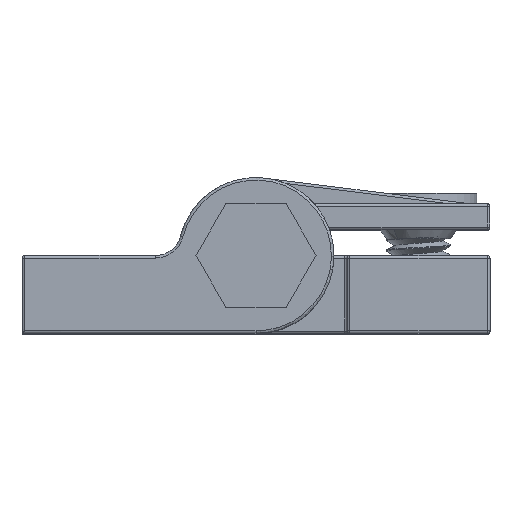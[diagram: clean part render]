
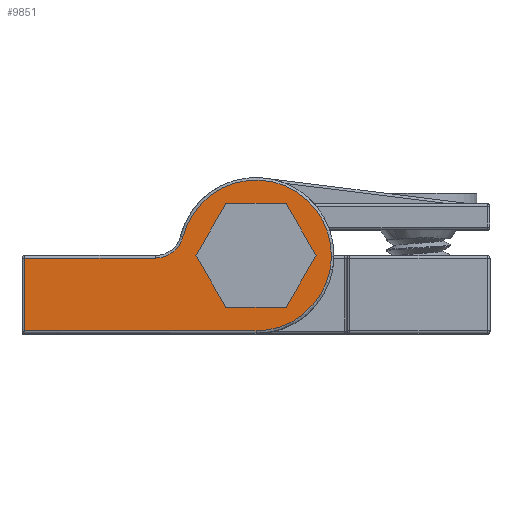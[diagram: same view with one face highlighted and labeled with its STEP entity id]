
A CAD part, top view. The second image highlights one B-rep face of the part: STEP entity #9851.
In plain terms, the highlighted planar face has unit normal (0, 0, 1) as drawn and (0, 0, -1) by its records, which use the part's own axes.
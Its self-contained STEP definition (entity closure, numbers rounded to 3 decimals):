
#4 = CARTESIAN_POINT ( 'NONE',  ( -2.309, 4., -21.5 ) ) ;
#295 = ORIENTED_EDGE ( 'NONE', *, *, #7822, .T. ) ;
#457 = VERTEX_POINT ( 'NONE', #5796 ) ;
#459 = CARTESIAN_POINT ( 'NONE',  ( -2.309, -4., -21.5 ) ) ;
#514 = CARTESIAN_POINT ( 'NONE',  ( -3.464, 2., -21.5 ) ) ;
#625 = DIRECTION ( 'NONE',  ( -0.5, 0.866, 0. ) ) ;
#709 = ORIENTED_EDGE ( 'NONE', *, *, #4555, .T. ) ;
#744 = VECTOR ( 'NONE', #6131, 1000. ) ;
#793 = CARTESIAN_POINT ( 'NONE',  ( -4.619, 0., -21.5 ) ) ;
#881 = VECTOR ( 'NONE', #8387, 1000. ) ;
#1053 = ORIENTED_EDGE ( 'NONE', *, *, #9034, .T. ) ;
#1059 = CARTESIAN_POINT ( 'NONE',  ( 3.464, -2., -21.5 ) ) ;
#1185 = CARTESIAN_POINT ( 'NONE',  ( 17.8, -5.8, -21.5 ) ) ;
#1251 = LINE ( 'NONE', #9494, #5747 ) ;
#1463 = VERTEX_POINT ( 'NONE', #1185 ) ;
#1751 = VERTEX_POINT ( 'NONE', #5449 ) ;
#1937 = CARTESIAN_POINT ( 'NONE',  ( 0., 0., -21.5 ) ) ;
#1951 = CARTESIAN_POINT ( 'NONE',  ( 0., -5.8, -21.5 ) ) ;
#2195 = ORIENTED_EDGE ( 'NONE', *, *, #7125, .T. ) ;
#2362 = VECTOR ( 'NONE', #3946, 1000. ) ;
#2554 = VECTOR ( 'NONE', #7519, 1000. ) ;
#2564 = CARTESIAN_POINT ( 'NONE',  ( -3.464, -2., -21.5 ) ) ;
#2586 = LINE ( 'NONE', #4957, #881 ) ;
#2690 = CARTESIAN_POINT ( 'NONE',  ( 0., 0., -21.5 ) ) ;
#2800 = VECTOR ( 'NONE', #625, 1000. ) ;
#3041 = EDGE_LOOP ( 'NONE', ( #2195, #295, #3044, #709, #4730, #7306 ) ) ;
#3044 = ORIENTED_EDGE ( 'NONE', *, *, #3278, .T. ) ;
#3278 = EDGE_CURVE ( 'NONE', #6644, #9101, #5016, .T. ) ;
#3298 = ORIENTED_EDGE ( 'NONE', *, *, #9732, .T. ) ;
#3408 = DIRECTION ( 'NONE',  ( 0.5, -0.866, 0. ) ) ;
#3422 = VERTEX_POINT ( 'NONE', #793 ) ;
#3521 = DIRECTION ( 'NONE',  ( 1., 0., 0. ) ) ;
#3524 = DIRECTION ( 'NONE',  ( 1., 0., 0. ) ) ;
#3538 = EDGE_LOOP ( 'NONE', ( #3860, #1053, #3298, #8294, #10411 ) ) ;
#3589 = DIRECTION ( 'NONE',  ( 0., -1., 0. ) ) ;
#3756 = FACE_BOUND ( 'NONE', #3041, .T. ) ;
#3860 = ORIENTED_EDGE ( 'NONE', *, *, #9168, .T. ) ;
#3946 = DIRECTION ( 'NONE',  ( -1., 0., 0. ) ) ;
#4120 = VERTEX_POINT ( 'NONE', #8276 ) ;
#4158 = LINE ( 'NONE', #4361, #8415 ) ;
#4269 = VECTOR ( 'NONE', #8967, 1000. ) ;
#4321 = VERTEX_POINT ( 'NONE', #1951 ) ;
#4361 = CARTESIAN_POINT ( 'NONE',  ( 0., -0.2, -21.5 ) ) ;
#4555 = EDGE_CURVE ( 'NONE', #9101, #9922, #9115, .T. ) ;
#4574 = VERTEX_POINT ( 'NONE', #6559 ) ;
#4646 = CARTESIAN_POINT ( 'NONE',  ( 7.746, 2., -21.5 ) ) ;
#4677 = AXIS2_PLACEMENT_3D ( 'NONE', #2690, #8624, #3524 ) ;
#4730 = ORIENTED_EDGE ( 'NONE', *, *, #8125, .T. ) ;
#4791 = LINE ( 'NONE', #10023, #2554 ) ;
#4957 = CARTESIAN_POINT ( 'NONE',  ( 0., -4., -21.5 ) ) ;
#5016 = LINE ( 'NONE', #9039, #2800 ) ;
#5449 = CARTESIAN_POINT ( 'NONE',  ( 5.616, 1.45, -21.5 ) ) ;
#5518 = DIRECTION ( 'NONE',  ( 1., 0., 0. ) ) ;
#5747 = VECTOR ( 'NONE', #3589, 1000. ) ;
#5760 = LINE ( 'NONE', #2564, #9979 ) ;
#5796 = CARTESIAN_POINT ( 'NONE',  ( 7.746, -0.2, -21.5 ) ) ;
#6131 = DIRECTION ( 'NONE',  ( 0.5, 0.866, 0. ) ) ;
#6302 = FACE_OUTER_BOUND ( 'NONE', #3538, .T. ) ;
#6559 = CARTESIAN_POINT ( 'NONE',  ( 17.8, -0.2, -21.5 ) ) ;
#6644 = VERTEX_POINT ( 'NONE', #9855 ) ;
#6946 = LINE ( 'NONE', #1059, #744 ) ;
#6964 = EDGE_CURVE ( 'NONE', #457, #4574, #4158, .T. ) ;
#7033 = DIRECTION ( 'NONE',  ( 0., 0., 1. ) ) ;
#7088 = CIRCLE ( 'NONE', #4677, 5.8 ) ;
#7125 = EDGE_CURVE ( 'NONE', #10216, #4120, #2586, .T. ) ;
#7306 = ORIENTED_EDGE ( 'NONE', *, *, #7677, .T. ) ;
#7398 = AXIS2_PLACEMENT_3D ( 'NONE', #4646, #10565, #5518 ) ;
#7519 = DIRECTION ( 'NONE',  ( -1., 0., 0. ) ) ;
#7677 = EDGE_CURVE ( 'NONE', #3422, #10216, #5760, .T. ) ;
#7822 = EDGE_CURVE ( 'NONE', #4120, #6644, #6946, .T. ) ;
#8125 = EDGE_CURVE ( 'NONE', #9922, #3422, #9057, .T. ) ;
#8276 = CARTESIAN_POINT ( 'NONE',  ( 2.309, -4., -21.5 ) ) ;
#8294 = ORIENTED_EDGE ( 'NONE', *, *, #9301, .T. ) ;
#8387 = DIRECTION ( 'NONE',  ( 1., 0., 0. ) ) ;
#8415 = VECTOR ( 'NONE', #3521, 1000. ) ;
#8525 = CARTESIAN_POINT ( 'NONE',  ( 2.309, 4., -21.5 ) ) ;
#8624 = DIRECTION ( 'NONE',  ( 0., 0., -1. ) ) ;
#8681 = AXIS2_PLACEMENT_3D ( 'NONE', #1937, #7033, #9561 ) ;
#8742 = PLANE ( 'NONE',  #8681 ) ;
#8967 = DIRECTION ( 'NONE',  ( -0.5, -0.866, 0. ) ) ;
#9027 = CARTESIAN_POINT ( 'NONE',  ( 0., 4., -21.5 ) ) ;
#9034 = EDGE_CURVE ( 'NONE', #1463, #4321, #4791, .T. ) ;
#9039 = CARTESIAN_POINT ( 'NONE',  ( 3.464, 2., -21.5 ) ) ;
#9057 = LINE ( 'NONE', #514, #4269 ) ;
#9101 = VERTEX_POINT ( 'NONE', #8525 ) ;
#9115 = LINE ( 'NONE', #9027, #2362 ) ;
#9168 = EDGE_CURVE ( 'NONE', #4574, #1463, #1251, .T. ) ;
#9301 = EDGE_CURVE ( 'NONE', #1751, #457, #10611, .T. ) ;
#9494 = CARTESIAN_POINT ( 'NONE',  ( 17.8, 0., -21.5 ) ) ;
#9561 = DIRECTION ( 'NONE',  ( 1., 0., 0. ) ) ;
#9732 = EDGE_CURVE ( 'NONE', #4321, #1751, #7088, .T. ) ;
#9851 = ADVANCED_FACE ( 'NONE', ( #6302, #3756 ), #8742, .F. ) ;
#9855 = CARTESIAN_POINT ( 'NONE',  ( 4.619, 0., -21.5 ) ) ;
#9922 = VERTEX_POINT ( 'NONE', #4 ) ;
#9979 = VECTOR ( 'NONE', #3408, 1000. ) ;
#10023 = CARTESIAN_POINT ( 'NONE',  ( 0., -5.8, -21.5 ) ) ;
#10216 = VERTEX_POINT ( 'NONE', #459 ) ;
#10411 = ORIENTED_EDGE ( 'NONE', *, *, #6964, .T. ) ;
#10565 = DIRECTION ( 'NONE',  ( 0., 0., 1. ) ) ;
#10611 = CIRCLE ( 'NONE', #7398, 2.2 ) ;
